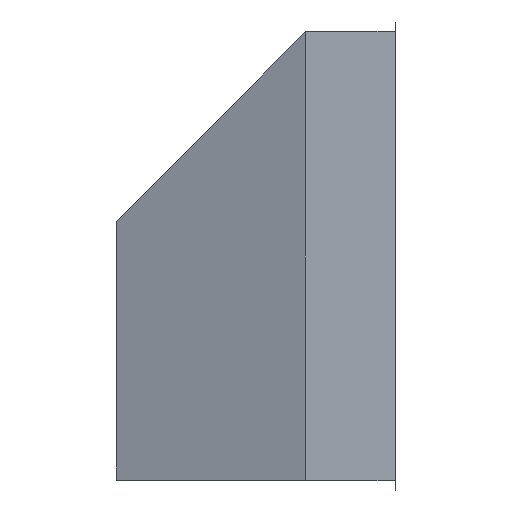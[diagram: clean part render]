
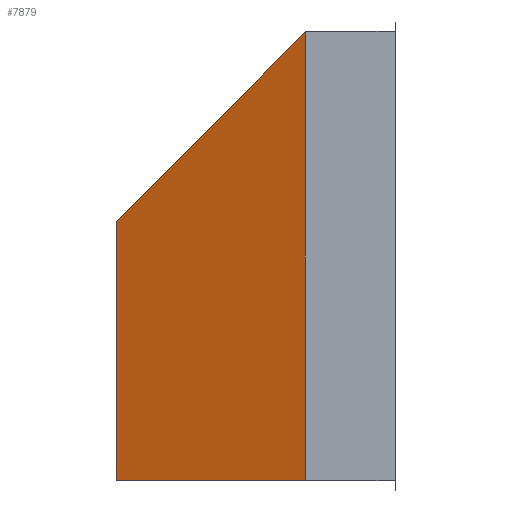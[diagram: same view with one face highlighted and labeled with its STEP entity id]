
A CAD part, left-side view. The second image highlights one B-rep face of the part: STEP entity #7879.
In plain terms, the highlighted planar face has unit normal (-0.94, 0.342, 0).
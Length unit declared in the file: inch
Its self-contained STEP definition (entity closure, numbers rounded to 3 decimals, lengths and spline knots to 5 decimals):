
#361=DIRECTION('',(-0.249,-0.685,0.685));
#362=VECTOR('',#361,13.87284);
#363=CARTESIAN_POINT('',(-28.70578,14.,13.));
#364=LINE('',#363,#362);
#477=DIRECTION('',(-0.342,-0.94,0.));
#478=VECTOR('',#477,10.10969);
#479=CARTESIAN_POINT('',(-28.70578,14.,0.));
#480=LINE('',#479,#478);
#498=DIRECTION('',(0.,0.,1.));
#499=VECTOR('',#498,13.);
#500=CARTESIAN_POINT('',(-28.70578,14.,0.));
#501=LINE('',#500,#499);
#512=DIRECTION('',(0.,0.,1.));
#513=VECTOR('',#512,22.5);
#514=CARTESIAN_POINT('',(-32.1635,4.5,0.));
#515=LINE('',#514,#513);
#6645=CARTESIAN_POINT('',(-32.1635,4.5,0.));
#6646=CARTESIAN_POINT('',(-32.1635,4.5,22.5));
#6647=VERTEX_POINT('',#6645);
#6648=VERTEX_POINT('',#6646);
#6649=CARTESIAN_POINT('',(-28.70578,14.,0.));
#6650=CARTESIAN_POINT('',(-28.70578,14.,13.));
#6651=VERTEX_POINT('',#6649);
#6652=VERTEX_POINT('',#6650);
#7867=CARTESIAN_POINT('',(-28.70578,14.,0.));
#7868=DIRECTION('',(-0.94,0.342,0.));
#7869=DIRECTION('',(-0.342,-0.94,0.));
#7870=AXIS2_PLACEMENT_3D('',#7867,#7868,#7869);
#7871=PLANE('',#7870);
#7873=ORIENTED_EDGE('',*,*,#7872,.F.);
#7874=ORIENTED_EDGE('',*,*,#7844,.F.);
#7875=ORIENTED_EDGE('',*,*,#7860,.T.);
#7876=ORIENTED_EDGE('',*,*,#7727,.T.);
#7877=EDGE_LOOP('',(#7873,#7874,#7875,#7876));
#7878=FACE_OUTER_BOUND('',#7877,.F.);
#7879=ADVANCED_FACE('',(#7878),#7871,.T.);
#7727=EDGE_CURVE('',#6652,#6648,#364,.T.);
#7844=EDGE_CURVE('',#6651,#6647,#480,.T.);
#7860=EDGE_CURVE('',#6651,#6652,#501,.T.);
#7872=EDGE_CURVE('',#6647,#6648,#515,.T.);
